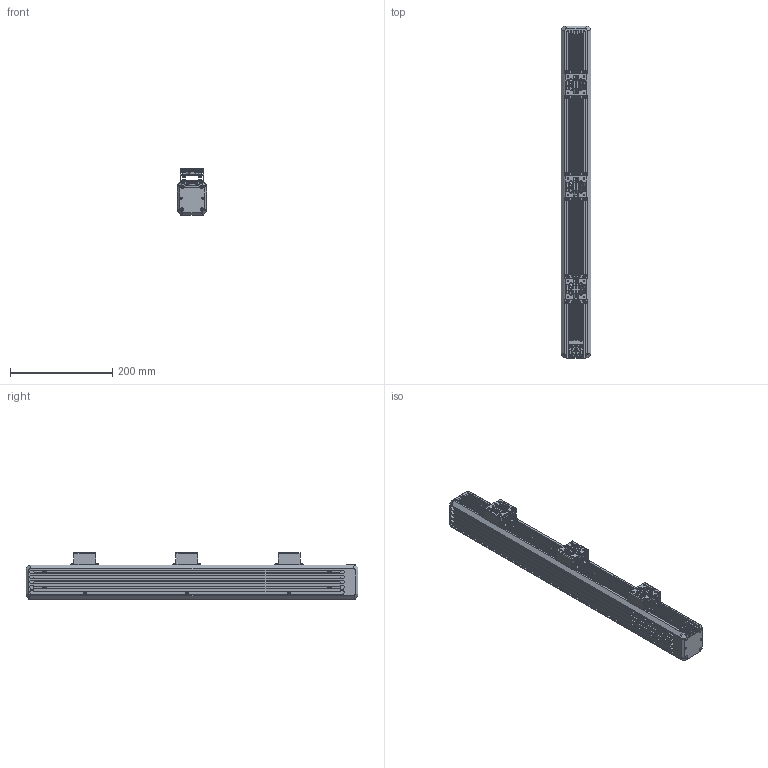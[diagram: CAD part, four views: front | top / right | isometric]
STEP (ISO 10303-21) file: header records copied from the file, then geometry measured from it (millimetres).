
FILE_DESCRIPTION((''),'2;1');
FILE_NAME('MV-LTDS-H-600-W','2022-09-02T16:45:02',('huguozhe'),(''),'CREO PARAMETRIC BY PTC INC, 2020044','CREO PARAMETRIC BY PTC INC, 2020044','');
FILE_SCHEMA(('AUTOMOTIVE_DESIGN { 1 0 10303 214 1 1 1 1 }'));
Products named in the file (1): MV-LTDS-H-600-W
Bounding box: 58 x 650 x 90.6 mm (x, y, z)
Volume: 1802853.4 mm3; surface area: 505714.2 mm2
Topology: 1 solids, 195 shells, 4059 faces, 10496 edges, 6516 vertices
Faces by surface type: plane 1968, cylinder 1339, cone 504, torus 202, bspline 46
Entity records: 145922 total; most frequent: CARTESIAN_POINT 28637, DIRECTION 21783, ORIENTED_EDGE 20052, EDGE_CURVE 10260, AXIS2_PLACEMENT_3D 8265, VERTEX_POINT 6516, VECTOR 5253, LINE 5253
